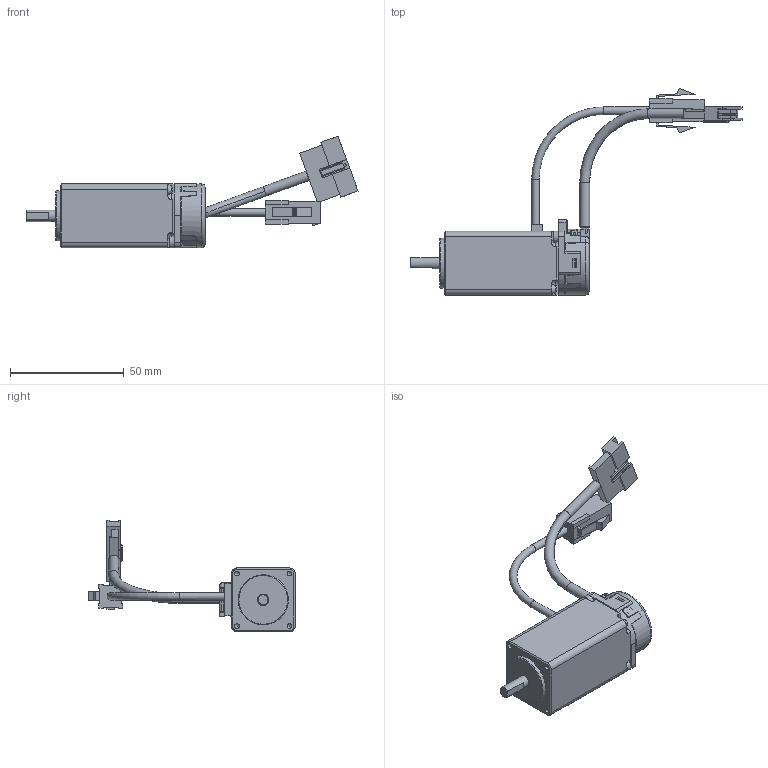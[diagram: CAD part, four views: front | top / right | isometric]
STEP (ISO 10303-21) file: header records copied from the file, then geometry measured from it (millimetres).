
FILE_DESCRIPTION(/* description */ (''),/* implementation_level */ '2;1');
FILE_NAME(/* name */ '\\EMN0D5F01\rp_inventor\RP Mechanical Design\Wiley\Updated Models\eCLM-P113D.stp',/* time_stamp */ '2016-10-27T15:00:49-07:00',/* author */ ('JDB'),/* organization */ ('Parker Hannifin Corp'),/* preprocessor_version */ 'ST-DEVELOPER v15.2',/* originating_system */ 'Autodesk Inventor 2014',/* authorisation */ '');
FILE_SCHEMA (('CONFIG_CONTROL_DESIGN'));
Products named in the file (1): eCLM-P113D_sw
Bounding box: 145.69 x 90.51 x 48.95 mm (x, y, z)
Volume: 47791.9 mm3; surface area: 23187 mm2
Topology: 3 solids, 4 shells, 3809 faces, 10812 edges, 7131 vertices
Faces by surface type: plane 3229, cylinder 412, cone 85, bspline 44, torus 35, sphere 4
Full cylindrical faces by diameter (mm): 1 x13, 1.5 x4, 1.55 x2, 1.57 x1, 1.6 x1, 2.05 x4, 2.1 x2, 2.75 x2, 3.172 x1, 3.3 x2, 4.3 x2, 5 x2, 6 x2, 8 x1, 8.5 x1, 8.69 x1, 8.7 x1, 10 x1, 11.5 x2, 21.082 x1, 22 x1
Entity records: 124878 total; most frequent: CARTESIAN_POINT 25808, ORIENTED_EDGE 21428, DIRECTION 19141, EDGE_CURVE 10716, LINE 9425, VECTOR 9425, VERTEX_POINT 7104, AXIS2_PLACEMENT_3D 4858
